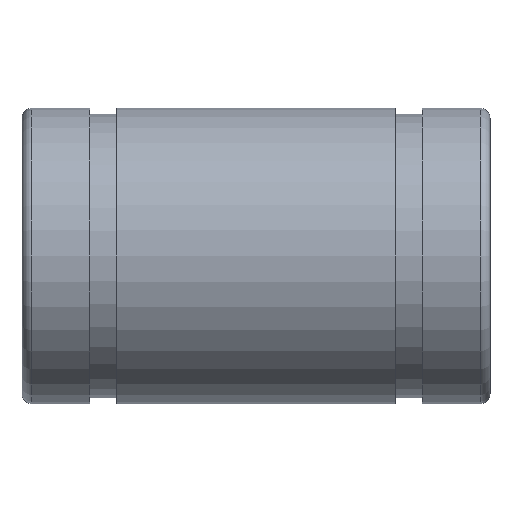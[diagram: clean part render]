
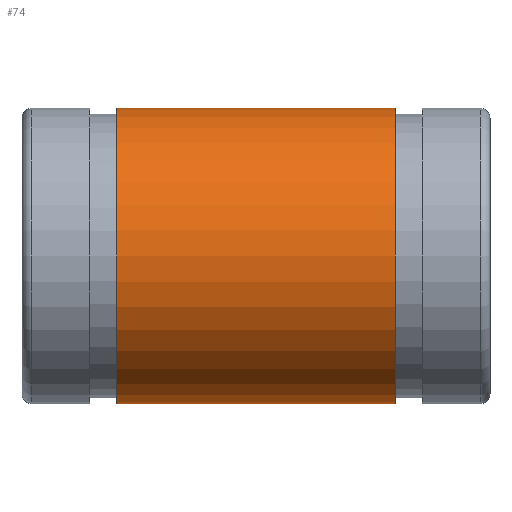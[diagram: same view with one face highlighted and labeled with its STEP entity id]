
A CAD part, front view. The second image highlights one B-rep face of the part: STEP entity #74.
In plain terms, the highlighted cylindrical face has radius 6 mm (diameter 12 mm), a full revolution.
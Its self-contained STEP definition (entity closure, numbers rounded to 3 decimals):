
#74 = ADVANCED_FACE( '', ( #159, #160 ), #161, .T. );
#159 = FACE_OUTER_BOUND( '', #238, .T. );
#160 = FACE_OUTER_BOUND( '', #239, .T. );
#161 = CYLINDRICAL_SURFACE( '', #240, 6. );
#238 = EDGE_LOOP( '', ( #343 ) );
#239 = EDGE_LOOP( '', ( #344 ) );
#240 = AXIS2_PLACEMENT_3D( '', #345, #346, #347 );
#343 = ORIENTED_EDGE( '', *, *, #372, .F. );
#344 = ORIENTED_EDGE( '', *, *, #376, .T. );
#345 = CARTESIAN_POINT( '', ( 9.5, 0., 0. ) );
#346 = DIRECTION( '', ( -1., 0., 0. ) );
#347 = DIRECTION( '', ( 0., 1., 0. ) );
#372 = EDGE_CURVE( '', #419, #419, #420, .T. );
#376 = EDGE_CURVE( '', #425, #425, #426, .T. );
#419 = VERTEX_POINT( '', #473 );
#420 = CIRCLE( '', #474, 6. );
#425 = VERTEX_POINT( '', #479 );
#426 = CIRCLE( '', #480, 6. );
#473 = CARTESIAN_POINT( '', ( 3.85, 6., 0. ) );
#474 = AXIS2_PLACEMENT_3D( '', #531, #532, #533 );
#479 = CARTESIAN_POINT( '', ( 15.15, 6., 0. ) );
#480 = AXIS2_PLACEMENT_3D( '', #537, #538, #539 );
#531 = CARTESIAN_POINT( '', ( 3.85, 0., 0. ) );
#532 = DIRECTION( '', ( -1., 0., 0. ) );
#533 = DIRECTION( '', ( 0., 1., 0. ) );
#537 = CARTESIAN_POINT( '', ( 15.15, 0., 0. ) );
#538 = DIRECTION( '', ( -1., 0., 0. ) );
#539 = DIRECTION( '', ( 0., 1., 0. ) );
